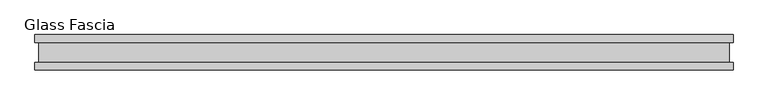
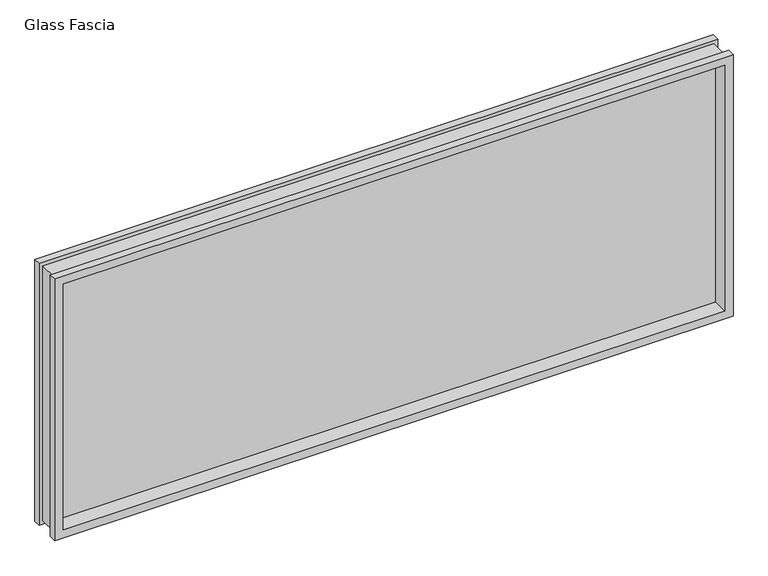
"""IFC4 building model written with IfcOpenShell, lengths in millimetres: proxy geometry, Panel-Fascia-Teknion-Altos-Glass : Glass Fascia."""

from ifc_helpers import new_model, si_unit, frame, origin, place, context, project, spatial, polyline, outline, extrude, faceted_brep, source, transform, mapped, element, save


def glass_fascia_a5cf5054(model_context):
    return source(origin(), model_context, "Body", "SolidModel", [
        faceted_brep([(978.7046, -5.0827449, 799.4805243), (978.7046, 5.0827449, 799.4805243), (978.7046, 5.0827449, 17.6374757), (978.7046, -5.0827449, 17.6374757), (993.1670757, -28.8801202, 813.943), (993.1670757, -50.0558594, 813.943), (993.1670757, -50.0558594, 3.175), (993.1670757, -28.8801202, 3.175), (982.3420758, 28.2698798, 803.1180001), (982.3420758, -28.8801202, 803.1180001), (982.3420758, -28.8801202, 13.9999999), (982.3420758, 28.2698798, 13.9999999), (993.1670757, 50.0558594, 813.943), (993.1670757, 28.2698798, 813.943), (993.1670757, 28.2698798, 3.175), (993.1670757, 50.0558594, 3.175), (-978.7046, 5.0827449, 17.6374757), (-978.7046, -5.0827449, 17.6374757), (-993.1670757, -50.0558594, 3.175), (-993.1670757, -28.8801202, 3.175), (-982.3420758, -28.8801202, 13.9999999), (-982.3420758, 28.2698798, 13.9999999), (-993.1670757, 28.2698798, 3.175), (-993.1670757, 50.0558594, 3.175), (-978.7046, 5.0827449, 799.4805243), (-978.7046, -5.0827449, 799.4805243), (-993.1670757, -50.0558594, 813.943), (-993.1670757, -28.8801202, 813.943), (-982.3420758, -28.8801202, 803.1180001), (-982.3420758, 28.2698798, 803.1180001), (-993.1670757, 28.2698798, 813.943), (-993.1670757, 50.0558594, 813.943), (968.2144089, 50.0558594, 788.9903332), (-968.2144089, 50.0558594, 788.9903332), (-968.2144089, 50.0558594, 28.1276668), (968.2144089, 50.0558594, 28.1276668), (968.2144089, 5.0827449, 28.1276668), (-968.2144089, 5.0827449, 28.1276668), (-968.2144089, 5.0827449, 788.9903332), (968.2144089, 5.0827449, 788.9903332), (968.2144089, -5.0827449, 788.9903332), (-968.2144089, -5.0827449, 788.9903332), (-968.2144089, -5.0827449, 28.1276668), (968.2144089, -5.0827449, 28.1276668), (968.2144089, -50.0558594, 28.1276668), (-968.2144089, -50.0558594, 28.1276668), (-968.2144089, -50.0558594, 788.9903332), (968.2144089, -50.0558594, 788.9903332)], [[[0, 1, 2, 3]], [[4, 5, 6, 7]], [[8, 9, 10, 11]], [[12, 13, 14, 15]], [[3, 2, 16, 17]], [[7, 6, 18, 19]], [[11, 10, 20, 21]], [[15, 14, 22, 23]], [[17, 16, 24, 25]], [[19, 18, 26, 27]], [[21, 20, 28, 29]], [[23, 22, 30, 31]], [[15, 23, 31, 12], [32, 33, 34, 35]], [[1, 24, 16, 2], [36, 37, 38, 39]], [[25, 24, 1, 0]], [[3, 17, 25, 0], [40, 41, 42, 43]], [[5, 26, 18, 6], [44, 45, 46, 47]], [[27, 26, 5, 4]], [[7, 19, 27, 4], [9, 28, 20, 10]], [[29, 28, 9, 8]], [[13, 30, 22, 14], [11, 21, 29, 8]], [[31, 30, 13, 12]], [[39, 32, 35, 36]], [[47, 40, 43, 44]], [[36, 35, 34, 37]], [[44, 43, 42, 45]], [[37, 34, 33, 38]], [[45, 42, 41, 46]], [[38, 33, 32, 39]], [[46, 41, 40, 47]]]),
        extrude(outline(polyline([(978.7046, 2.9765625), (978.7046, -2.9765625), (-978.7046, -2.9765625), (-978.7046, 2.9765625), (978.7046, 2.9765625)])), frame((0.0, 0.0, 17.6374757), z_axis=(0.0, 0.0, 1.0), x_axis=(1.0, 0.0, 0.0)), (0.0, 0.0, 1.0), 781.8430485),
    ])


if __name__ == "__main__":
    model = new_model("IFC4")
    model_context = context("Model", 3, world=origin())
    ifc_project = project(units=[si_unit("LENGTHUNIT", "METRE", prefix="MILLI")], contexts=[model_context])
    site = spatial("IfcSite", under=ifc_project)
    building = spatial("IfcBuilding", under=site)
    placement = place(None, origin())
    glass_fascia_shape = glass_fascia_a5cf5054(model_context)
    element("IfcBuildingElementProxy", 1, Name="Panel-Fascia-Teknion-Altos-Glass : Glass Fascia", ObjectType="Panel-Fascia-Teknion-Altos-Glass : Glass Fascia", at=placement, inside=building, context=model_context, shape_type="MappedRepresentation", body=[
        mapped(glass_fascia_shape, transform((0.0, 0.0, 0.0), x_axis=(1.0, 0.0, 0.0), y_axis=(0.0, 1.0, 0.0), z_axis=(0.0, 0.0, 1.0))),
    ])
    save(model, "model.ifc")
